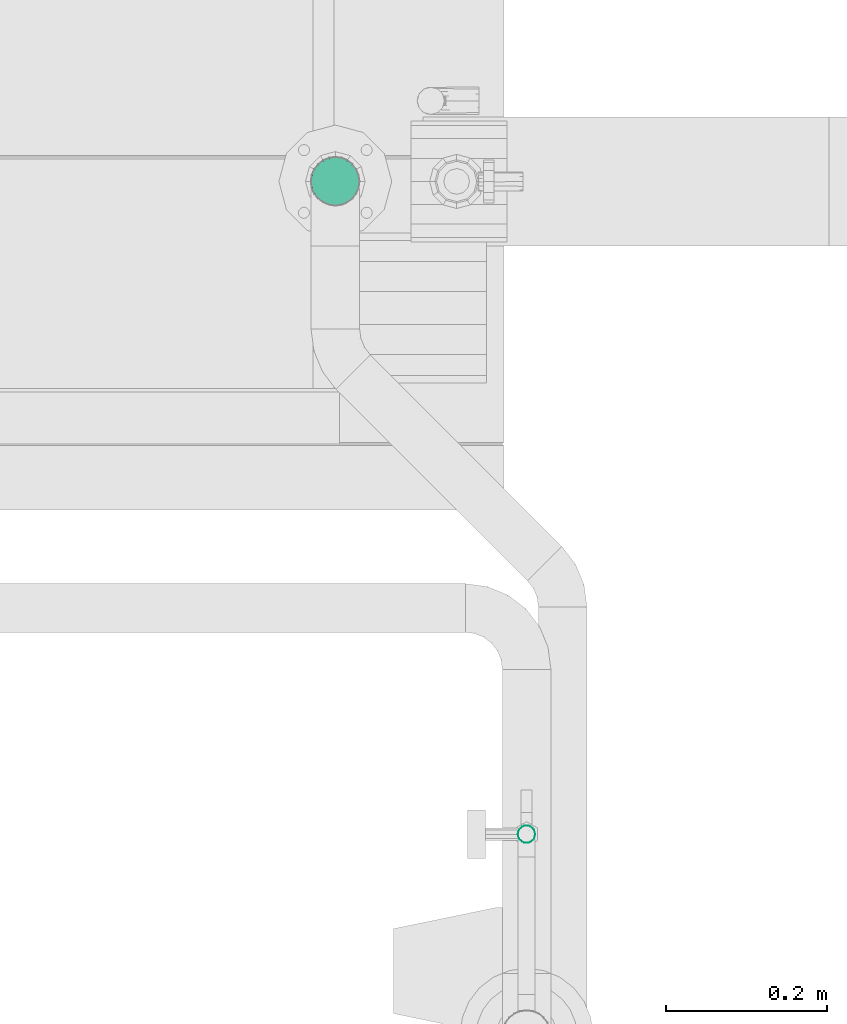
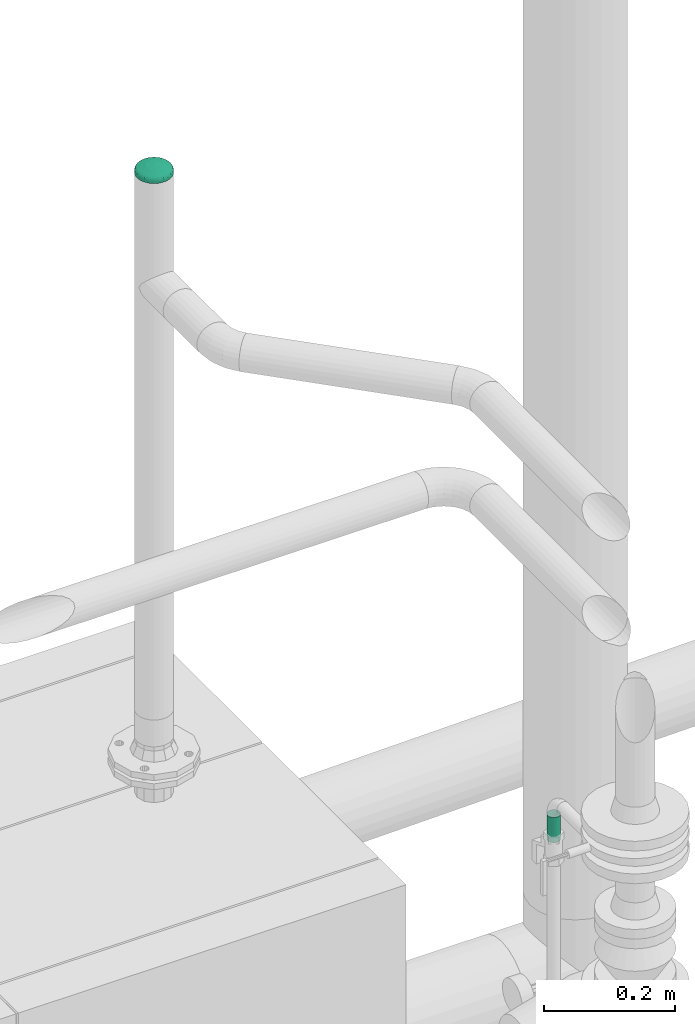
# One storey, part 354 of 374: 1 flow fitting, 1 flow segment.
"""IFC2X3 building model written with IfcOpenShell, lengths in metres."""

from ifc_helpers import new_model, si_unit, direction, origin, place, context, subcontext, project, spatial, open_shell, surface_model, source, transform, mapped, element, save


model = new_model("IFC2X3")

# Units and contexts
model_context = context("Model", 3, precision=1e-05, world=origin(), true_north=direction((-0.4480736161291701, 0.8939966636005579)))
body_context = subcontext(model_context, "Body", "Model", "MODEL_VIEW")
ifc_project = project(units=[si_unit("LENGTHUNIT", "METRE"), si_unit("AREAUNIT", "SQUARE_METRE"), si_unit("VOLUMEUNIT", "CUBIC_METRE"), si_unit("PLANEANGLEUNIT", "RADIAN"), si_unit("THERMODYNAMICTEMPERATUREUNIT", "KELVIN"), si_unit("MASSUNIT", "GRAM", prefix="KILO"), si_unit("TIMEUNIT", "SECOND")], contexts=[model_context])

# Site, building, storey
site_placement = place(None, origin())
site = spatial("IfcSite", under=ifc_project, at=site_placement, Name="Site 1", CompositionType="ELEMENT")
building_placement = place(site_placement, origin())
building = spatial("IfcBuilding", under=site, at=building_placement, Name="Undefined", CompositionType="ELEMENT")
storey_placement = place(building_placement, origin())
storey = spatial("IfcBuildingStorey", under=building, at=storey_placement, Name="Rez de chauss\x8ee", CompositionType="ELEMENT", Elevation=0.0)

# Flow fitting
shared_shape_1 = source(origin(), body_context, "Body", "SurfaceModel", [
    surface_model("IfcFaceBasedSurfaceModel", [(0.01346194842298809, 0.0, 0.0), (0.00045317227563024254, 0.00346349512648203, -4.4408921e-16), (0.0, 0.0, 0.0), (0.0004531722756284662, -0.0034620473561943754, -0.00010013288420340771), (0.0017818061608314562, -0.006686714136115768, -0.00029357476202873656), (0.0038953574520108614, -0.009454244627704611, -0.0005671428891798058), (0.0066497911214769, -0.011576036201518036, -0.0009021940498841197), (0.00985739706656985, -0.012907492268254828, -0.0012758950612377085), (0.013299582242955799, -0.013357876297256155, -0.001662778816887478), (0.016741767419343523, -0.012896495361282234, -0.002036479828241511), (0.01994937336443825, -0.01155479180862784, -0.0023715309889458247), (0.02270380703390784, -0.009424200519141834, -0.00264509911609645), (0.02481735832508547, -0.0066499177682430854, -0.0028385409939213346), (0.026145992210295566, -0.0034210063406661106, -0.002938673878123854), (0.026599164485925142, 4.24887858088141e-05, -0.0029386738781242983), (0.026145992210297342, 0.0035045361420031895, -0.0028385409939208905), (0.024817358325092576, 0.006729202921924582, -0.002645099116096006), (0.022703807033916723, 0.00949673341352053, -0.0023715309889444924), (0.019949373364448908, 0.011618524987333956, -0.0020364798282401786), (0.01674176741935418, 0.012949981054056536, -0.0016627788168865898), (0.01329958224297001, 0.013400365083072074, -0.0012758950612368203), (0.009857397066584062, 0.012938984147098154, -0.0009021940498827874), (0.006649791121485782, 0.011597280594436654, -0.0005671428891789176), (0.003895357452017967, 0.009466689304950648, -0.0002935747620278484), (0.0017818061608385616, 0.006692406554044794, -0.00010013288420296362), (-0.012252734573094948, 0.006802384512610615, -0.0029386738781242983), (-0.013137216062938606, 4.24887858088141e-05, -0.0029386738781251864), (-0.012252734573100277, -0.006714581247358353, -0.003134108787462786), (-0.009659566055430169, -0.013008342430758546, -0.0035116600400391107), (-0.0055344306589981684, -0.01840988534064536, -0.004045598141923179), (-0.00015844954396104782, -0.02255110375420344, -0.004699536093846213), (0.006102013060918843, -0.02514978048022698, -0.005428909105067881), (0.01282031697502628, -0.026028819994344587, -0.006184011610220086), (0.01953862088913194, -0.02512831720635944, -0.00691338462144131), (0.025799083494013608, -0.02250963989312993, -0.0075673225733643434), (0.031175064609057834, -0.018351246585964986, -0.008101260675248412), (0.03530020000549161, -0.012936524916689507, -0.008478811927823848), (0.03789336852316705, -0.006634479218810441, -0.008674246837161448), (0.038777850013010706, 0.00012541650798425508, -0.008674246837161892), (0.037893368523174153, 0.006882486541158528, -0.00847881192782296), (0.03530020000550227, 0.013176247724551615, -0.008101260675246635), (0.03117506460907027, 0.01857779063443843, -0.007567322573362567), (0.025799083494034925, 0.022719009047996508, -0.006913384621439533), (0.019538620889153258, 0.025317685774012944, -0.0061840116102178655), (0.012820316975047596, 0.026196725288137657, -0.005428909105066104), (0.006102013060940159, 0.02529622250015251, -0.004699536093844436), (-0.0001584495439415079, 0.022677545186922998, -0.004045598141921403), (-0.005534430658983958, 0.01851915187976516, -0.0035116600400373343), (-0.00965956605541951, 0.013104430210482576, -0.003134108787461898), (-0.013961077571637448, 0.0072437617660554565, -0.0038380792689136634), (-0.014901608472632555, 5.549282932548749e-05, -0.0038380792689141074), (-0.013961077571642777, -0.007129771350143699, -0.004045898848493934), (-0.011203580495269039, -0.013822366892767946, -0.004447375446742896), (-0.006817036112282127, -0.019566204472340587, -0.005015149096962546), (-0.0011003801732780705, -0.023969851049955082, -0.005710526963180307), (0.005556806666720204, -0.02673320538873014, -0.006486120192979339), (0.012700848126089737, -0.027667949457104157, -0.007289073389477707), (0.01984488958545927, -0.026710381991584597, -0.008064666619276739), (0.02650207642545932, -0.023925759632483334, -0.008760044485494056), (0.03221873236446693, -0.019503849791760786, -0.009327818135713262), (0.036605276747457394, -0.01374599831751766, -0.00972929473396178), (0.03936277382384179, -0.007044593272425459, -0.009937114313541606), (0.04030330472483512, 0.0001436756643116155, -0.009937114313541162), (0.03936277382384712, 0.007328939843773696, -0.009729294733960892), (0.036605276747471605, 0.014021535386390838, -0.00932781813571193), (0.03221873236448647, 0.019765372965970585, -0.00876004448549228), (0.026502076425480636, 0.024169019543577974, -0.008064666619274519), (0.01984488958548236, 0.026932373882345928, -0.007289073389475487), (0.01270084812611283, 0.02786711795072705, -0.006486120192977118), (0.005556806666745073, 0.026909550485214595, -0.005710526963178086), (-0.0011003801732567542, 0.024124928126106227, -0.005015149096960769), (-0.006817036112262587, 0.019703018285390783, -0.004447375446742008), (-0.011203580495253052, 0.013945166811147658, -0.004045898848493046), (-0.015361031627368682, 0.007596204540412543, -0.0051938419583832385), (-0.0163451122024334, 7.509511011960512e-05, -0.0051938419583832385), (-0.015361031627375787, -0.007442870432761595, -0.005411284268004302), (-0.012475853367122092, -0.014445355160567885, -0.005831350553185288), (-0.007886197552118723, -0.020455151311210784, -0.006425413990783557), (-0.001904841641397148, -0.02506270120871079, -0.007152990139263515), (0.005060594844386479, -0.027954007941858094, -0.007964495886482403), (0.012535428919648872, -0.02893203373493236, -0.008804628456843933), (0.02001026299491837, -0.02793012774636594, -0.00961613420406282), (0.02697569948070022, -0.02501656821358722, -0.010343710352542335), (0.03295705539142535, -0.020389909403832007, -0.01093777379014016), (0.03754671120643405, -0.014365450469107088, -0.011357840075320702), (0.040431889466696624, -0.0073537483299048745, -0.011575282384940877), (0.04141597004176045, 0.00016736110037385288, -0.011575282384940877), (0.04043188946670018, 0.0076853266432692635, -0.011357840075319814), (0.03754671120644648, 0.014687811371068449, -0.010937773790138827), (0.03295705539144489, 0.020697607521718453, -0.010343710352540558), (0.026975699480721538, 0.02530515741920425, -0.0096161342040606), (0.020010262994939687, 0.028196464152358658, -0.008804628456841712), (0.012535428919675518, 0.02917448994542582, -0.007964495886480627), (0.005060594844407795, 0.02817258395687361, -0.007152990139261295), (-0.0019048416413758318, 0.025259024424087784, -0.006425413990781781), (-0.00788619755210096, 0.020632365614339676, -0.005831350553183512), (-0.01247585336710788, 0.014607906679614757, -0.0054112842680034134), (-0.016341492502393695, 0.007831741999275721, -0.0068983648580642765), (-0.017353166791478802, 9.973993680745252e-05, -0.0068983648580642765), (-0.0163414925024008, -0.007629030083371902, -0.007121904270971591), (-0.013375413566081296, -0.01482786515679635, -0.007553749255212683), (-0.008657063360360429, -0.021006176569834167, -0.008164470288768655), (-0.002507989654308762, -0.025742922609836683, -0.008912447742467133), (0.0046527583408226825, -0.028715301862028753, -0.009746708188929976), (0.01233718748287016, -0.029720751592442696, -0.010610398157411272), (0.02002161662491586, -0.028690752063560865, -0.01144465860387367), (0.027182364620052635, -0.025695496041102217, -0.012192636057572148), (0.03333143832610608, -0.020939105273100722, -0.012803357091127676), (0.038049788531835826, -0.014745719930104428, -0.013235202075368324), (0.041015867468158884, -0.007537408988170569, -0.01345874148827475), (0.042027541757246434, 0.00019459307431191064, -0.013458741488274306), (0.04101586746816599, 0.007923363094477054, -0.013235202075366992), (0.038049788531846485, 0.015122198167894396, -0.012803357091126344), (0.03333143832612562, 0.021300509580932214, -0.012192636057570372), (0.02718236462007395, 0.02603725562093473, -0.01144465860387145), (0.020021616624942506, 0.0290096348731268, -0.010610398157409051), (0.012337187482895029, 0.030015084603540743, -0.009746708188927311), (0.004652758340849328, 0.02898508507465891, -0.008912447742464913), (-0.002507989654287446, 0.025989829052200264, -0.008164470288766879), (-0.008657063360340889, 0.021233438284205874, -0.0075537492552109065), (-0.013375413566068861, 0.015040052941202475, -0.0071219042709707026), (-0.016824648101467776, 0.007931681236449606, -0.008816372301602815), (-0.017845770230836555, 0.00012747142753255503, -0.008816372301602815), (-0.016824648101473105, -0.007673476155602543, -0.009041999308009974), (-0.01383086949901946, -0.014939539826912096, -0.009477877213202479), (-0.009068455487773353, -0.02117554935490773, -0.010094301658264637), (-0.0028619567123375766, -0.02595653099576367, -0.010849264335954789), (0.004365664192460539, -0.02895666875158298, -0.011691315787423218), (0.01212185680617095, -0.029971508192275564, -0.012563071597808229), (0.019878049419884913, -0.028931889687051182, -0.013405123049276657), (0.027105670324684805, -0.025908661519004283, -0.014160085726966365), (0.033312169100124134, -0.021107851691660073, -0.014776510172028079), (0.03807458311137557, -0.01485662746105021, -0.01521238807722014), (0.0410683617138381, -0.007580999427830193, -0.015438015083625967), (0.042089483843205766, 0.00022321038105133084, -0.015438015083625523), (0.0410683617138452, 0.008024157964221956, -0.015212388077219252), (0.03807458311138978, 0.015290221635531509, -0.014776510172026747), (0.0333121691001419, 0.021526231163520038, -0.014160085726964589), (0.02710567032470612, 0.026307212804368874, -0.013405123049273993), (0.019878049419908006, 0.029307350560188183, -0.012563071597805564), (0.012121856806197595, 0.030322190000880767, -0.011691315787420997), (0.0043656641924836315, 0.02928257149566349, -0.010849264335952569), (-0.002861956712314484, 0.026259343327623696, -0.01009430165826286), (-0.009068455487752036, 0.021458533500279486, -0.009477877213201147), (-0.013830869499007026, 0.015207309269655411, -0.009041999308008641), (-0.017209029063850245, 0.007981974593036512, -0.012294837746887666), (-0.018230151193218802, 0.00017776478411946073, -0.012294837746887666), (-0.017209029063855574, -0.0076231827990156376, -0.012520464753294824), (-0.01421525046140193, -0.01488924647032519, -0.01295634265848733), (-0.009452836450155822, -0.021125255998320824, -0.013572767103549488), (-0.0032463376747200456, -0.025906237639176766, -0.01432772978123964), (0.00398128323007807, -0.028906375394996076, -0.015169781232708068), (0.01173747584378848, -0.02992121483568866, -0.01604153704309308), (0.019493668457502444, -0.028881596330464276, -0.016883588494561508), (0.026721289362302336, -0.025858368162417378, -0.017638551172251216), (0.032927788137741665, -0.021057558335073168, -0.01825497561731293), (0.0376902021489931, -0.014806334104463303, -0.018690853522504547), (0.04068398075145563, -0.007530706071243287, -0.018916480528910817), (0.0417051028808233, 0.00027350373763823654, -0.018916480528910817), (0.040683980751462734, 0.008074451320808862, -0.01869085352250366), (0.03769020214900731, 0.015340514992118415, -0.018254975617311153), (0.03292778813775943, 0.021576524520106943, -0.017638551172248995), (0.026721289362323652, 0.02635750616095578, -0.016883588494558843), (0.019493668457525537, 0.02935764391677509, -0.016041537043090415), (0.011737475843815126, 0.030372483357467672, -0.015169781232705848), (0.0039812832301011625, 0.029332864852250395, -0.014327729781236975), (-0.003246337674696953, 0.026309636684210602, -0.013572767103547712), (-0.009452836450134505, 0.021508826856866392, -0.012956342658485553), (-0.014215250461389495, 0.015257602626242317, -0.012520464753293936)], [open_shell([[[0, 1, 2]], [[0, 2, 3]], [[0, 3, 4]], [[0, 4, 5]], [[0, 5, 6]], [[0, 6, 7]], [[0, 7, 8]], [[0, 8, 9]], [[0, 9, 10]], [[0, 10, 11]], [[0, 11, 12]], [[0, 12, 13]], [[0, 13, 14]], [[0, 14, 15]], [[0, 15, 16]], [[0, 16, 17]], [[0, 17, 18]], [[0, 18, 19]], [[0, 19, 20]], [[0, 20, 21]], [[0, 21, 22]], [[0, 22, 23]], [[0, 23, 24]], [[0, 24, 1]], [[1, 25, 26, 2]], [[2, 26, 27, 3]], [[3, 27, 28, 4]], [[4, 28, 29, 5]], [[5, 29, 30, 6]], [[6, 30, 31, 7]], [[7, 31, 32, 8]], [[8, 32, 33, 9]], [[9, 33, 34, 10]], [[10, 34, 35, 11]], [[11, 35, 36, 12]], [[12, 36, 37, 13]], [[13, 37, 38, 14]], [[14, 38, 39, 15]], [[15, 39, 40, 16]], [[16, 40, 41, 17]], [[17, 41, 42, 18]], [[18, 42, 43, 19]], [[19, 43, 44, 20]], [[20, 44, 45, 21]], [[21, 45, 46, 22]], [[22, 46, 47, 23]], [[23, 47, 48, 24]], [[24, 48, 25, 1]], [[25, 49, 50, 26]], [[26, 50, 51, 27]], [[27, 51, 52, 28]], [[28, 52, 53, 29]], [[29, 53, 54, 30]], [[30, 54, 55, 31]], [[31, 55, 56, 32]], [[32, 56, 57, 33]], [[33, 57, 58, 34]], [[34, 58, 59, 35]], [[35, 59, 60, 36]], [[36, 60, 61, 37]], [[37, 61, 62, 38]], [[38, 62, 63, 39]], [[39, 63, 64, 40]], [[40, 64, 65, 41]], [[41, 65, 66, 42]], [[42, 66, 67, 43]], [[43, 67, 68, 44]], [[44, 68, 69, 45]], [[45, 69, 70, 46]], [[46, 70, 71, 47]], [[47, 71, 72, 48]], [[48, 72, 49, 25]], [[49, 73, 74, 50]], [[50, 74, 75, 51]], [[51, 75, 76, 52]], [[52, 76, 77, 53]], [[53, 77, 78, 54]], [[54, 78, 79, 55]], [[55, 79, 80, 56]], [[56, 80, 81, 57]], [[57, 81, 82, 58]], [[58, 82, 83, 59]], [[59, 83, 84, 60]], [[60, 84, 85, 61]], [[61, 85, 86, 62]], [[62, 86, 87, 63]], [[63, 87, 88, 64]], [[64, 88, 89, 65]], [[65, 89, 90, 66]], [[66, 90, 91, 67]], [[67, 91, 92, 68]], [[68, 92, 93, 69]], [[69, 93, 94, 70]], [[70, 94, 95, 71]], [[71, 95, 96, 72]], [[72, 96, 73, 49]], [[73, 97, 98, 74]], [[74, 98, 99, 75]], [[75, 99, 100, 76]], [[76, 100, 101, 77]], [[77, 101, 102, 78]], [[78, 102, 103, 79]], [[79, 103, 104, 80]], [[80, 104, 105, 81]], [[81, 105, 106, 82]], [[82, 106, 107, 83]], [[83, 107, 108, 84]], [[84, 108, 109, 85]], [[85, 109, 110, 86]], [[86, 110, 111, 87]], [[87, 111, 112, 88]], [[88, 112, 113, 89]], [[89, 113, 114, 90]], [[90, 114, 115, 91]], [[91, 115, 116, 92]], [[92, 116, 117, 93]], [[93, 117, 118, 94]], [[94, 118, 119, 95]], [[95, 119, 120, 96]], [[96, 120, 97, 73]], [[97, 121, 122, 98]], [[98, 122, 123, 99]], [[99, 123, 124, 100]], [[100, 124, 125, 101]], [[101, 125, 126, 102]], [[102, 126, 127, 103]], [[103, 127, 128, 104]], [[104, 128, 129, 105]], [[105, 129, 130, 106]], [[106, 130, 131, 107]], [[107, 131, 132, 108]], [[108, 132, 133, 109]], [[109, 133, 134, 110]], [[110, 134, 135, 111]], [[111, 135, 136, 112]], [[112, 136, 137, 113]], [[113, 137, 138, 114]], [[114, 138, 139, 115]], [[115, 139, 140, 116]], [[116, 140, 141, 117]], [[117, 141, 142, 118]], [[118, 142, 143, 119]], [[119, 143, 144, 120]], [[120, 144, 121, 97]], [[121, 145, 146, 122]], [[122, 146, 147, 123]], [[123, 147, 148, 124]], [[124, 148, 149, 125]], [[125, 149, 150, 126]], [[126, 150, 151, 127]], [[127, 151, 152, 128]], [[128, 152, 153, 129]], [[129, 153, 154, 130]], [[130, 154, 155, 131]], [[131, 155, 156, 132]], [[132, 156, 157, 133]], [[133, 157, 158, 134]], [[134, 158, 159, 135]], [[135, 159, 160, 136]], [[136, 160, 161, 137]], [[137, 161, 162, 138]], [[138, 162, 163, 139]], [[139, 163, 164, 140]], [[140, 164, 165, 141]], [[141, 165, 166, 142]], [[142, 166, 167, 143]], [[143, 167, 168, 144]], [[144, 168, 145, 121]]])]),
])
flow_fitting_placement = place(storey_placement, origin())
element("IfcFlowFitting", 1, at=flow_fitting_placement, inside=storey, Name="Fond/couvercle", ObjectType="Fond/couvercle", context=body_context, shape_type="MappedRepresentation", body=[
    mapped(shared_shape_1, transform((54.758636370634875, 13.069137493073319, 2.402223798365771), x_axis=(0.2572534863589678, -0.9600830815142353, 0.10982313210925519), y_axis=(0.966235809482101, 0.25725838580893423, -0.014369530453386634), z_axis=(-0.014456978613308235, 0.10981165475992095, 0.9938472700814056))),
])

# Flow segment
shared_shape_2 = source(origin(), body_context, "Body", "SurfaceModel", [
    surface_model("IfcFaceBasedSurfaceModel", [(1.776356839e-15, 0.0027802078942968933, 0.0), (0.0, 0.0, 0.0), (0.04722195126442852, -1.776356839e-15, -7.105427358e-15), (0.04722195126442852, 0.0027802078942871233, 0.0), (0.0, -0.002685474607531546, -0.0007195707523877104), (0.04722195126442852, -0.002685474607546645, -0.000719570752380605), (1.776356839e-15, -0.00509320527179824, -0.002109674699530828), (0.04722195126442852, -0.005093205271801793, -0.0021096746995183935), (1.776356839e-15, -0.007059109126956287, -0.004075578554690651), (0.04722195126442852, -0.0070591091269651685, -0.0040755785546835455), (0.0, -0.00844921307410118, -0.00648330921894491), (0.04722195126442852, -0.008449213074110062, -0.006483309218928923), (0.0, -0.009168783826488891, -0.009168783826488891), (0.04722195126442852, -0.009168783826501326, -0.00916878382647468), (0.0, -0.009168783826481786, -0.011948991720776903), (0.04722195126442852, -0.009168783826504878, -0.011948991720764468), (1.776356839e-15, -0.00844921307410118, -0.014634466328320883), (0.04722195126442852, -0.008449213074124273, -0.014634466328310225), (1.776356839e-15, -0.007059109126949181, -0.017042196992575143), (0.04722195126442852, -0.007059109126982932, -0.017042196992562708), (0.0, -0.005093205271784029, -0.019008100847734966), (0.04722195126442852, -0.005093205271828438, -0.01900810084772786), (0.0, -0.0026854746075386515, -0.020398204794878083), (0.04722195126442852, -0.002685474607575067, -0.020398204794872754), (1.776356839e-15, 7.105427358e-15, -0.021117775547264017), (0.04722195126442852, -3.108624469e-14, -0.021117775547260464), (1.776356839e-15, 0.002780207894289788, -0.02111777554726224), (0.04722195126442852, 0.0027802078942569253, -0.021117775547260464), (1.776356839e-15, 0.005465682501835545, -0.020398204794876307), (0.04722195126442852, 0.00546568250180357, -0.020398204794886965), (1.776356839e-15, 0.007873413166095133, -0.01900810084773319), (0.04722195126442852, 0.00787341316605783, -0.019008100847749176), (0.0, 0.00983931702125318, -0.017042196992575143), (0.04722195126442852, 0.00983931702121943, -0.01704219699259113), (1.776356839e-15, 0.011229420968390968, -0.01463446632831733), (0.04722195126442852, 0.0112294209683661, -0.014634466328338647), (1.776356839e-15, 0.011948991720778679, -0.011948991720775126), (0.04722195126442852, 0.011948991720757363, -0.01194899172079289), (1.776356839e-15, 0.011948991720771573, -0.009168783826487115), (0.04722195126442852, 0.011948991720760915, -0.009168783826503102), (0.0, 0.011229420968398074, -0.006483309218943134), (0.04722195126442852, 0.011229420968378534, -0.00648330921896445), (1.776356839e-15, 0.009839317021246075, -0.0040755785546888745), (0.04722195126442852, 0.009839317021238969, -0.004075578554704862), (1.776356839e-15, 0.007873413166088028, -0.0021096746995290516), (0.04722195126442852, 0.007873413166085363, -0.0021096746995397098), (1.776356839e-15, 0.005465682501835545, -0.000719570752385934), (0.04722195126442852, 0.005465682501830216, -0.0007195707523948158)], [open_shell([[[0, 1, 2, 3]], [[1, 4, 5, 2]], [[4, 6, 7, 5]], [[6, 8, 9, 7]], [[8, 10, 11, 9]], [[10, 12, 13, 11]], [[12, 14, 15, 13]], [[14, 16, 17, 15]], [[16, 18, 19, 17]], [[18, 20, 21, 19]], [[20, 22, 23, 21]], [[22, 24, 25, 23]], [[24, 26, 27, 25]], [[26, 28, 29, 27]], [[28, 30, 31, 29]], [[30, 32, 33, 31]], [[32, 34, 35, 33]], [[34, 36, 37, 35]], [[36, 38, 39, 37]], [[38, 40, 41, 39]], [[40, 42, 43, 41]], [[42, 44, 45, 43]], [[44, 46, 47, 45]], [[46, 0, 3, 47]]])]),
])
flow_segment_placement = place(storey_placement, origin())
element("IfcFlowSegment", 2, at=flow_segment_placement, inside=storey, Name="Tube acier d'après DIN 2448", ObjectType="Tube acier d'après DIN 2448", context=body_context, shape_type="MappedRepresentation", body=[
    mapped(shared_shape_2, transform((55.009616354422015, 12.249204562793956, 1.553600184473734), x_axis=(0.0, 0.0, 1.0), y_axis=(0.13052619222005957, -0.9914448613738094, 0.0), z_axis=(0.9914448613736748, 0.13052619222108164, 0.0))),
])

save(model, "model.ifc")
